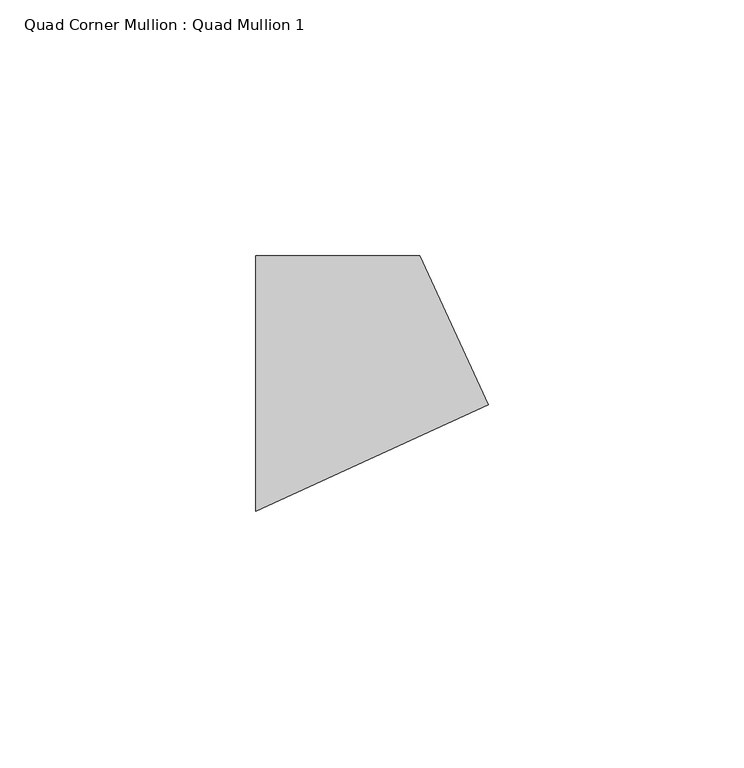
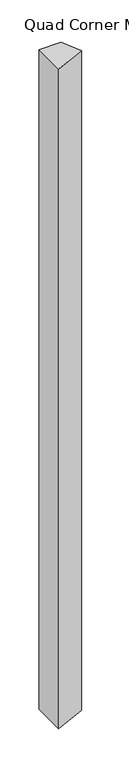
"""IFC4 building model written with IfcOpenShell, lengths in millimetres: member geometry, Quad Corner Mullion : Quad Mullion 1."""

from ifc_helpers import new_model, si_unit, frame, origin, place, context, project, spatial, polyline, outline, extrude, source, transform, mapped, element, save


def quad_corner_mullion_quad_mullion_1_28ccaedd(model_context):
    return source(origin(), model_context, "Body", "SweptSolid", [
        extrude(outline(polyline([(29.4125559, -4.1926582), (-16.0523154, -25.0), (-16.0523154, 25.0), (16.0523154, 25.0), (29.4125559, -4.1926582)])), frame((0.0, 0.0, -1023.8543217), z_axis=(0.0, 0.0, 1.0), x_axis=(1.0, 0.0, 0.0)), (0.0, 0.0, 1.0), 1023.8543217),
    ])


if __name__ == "__main__":
    model = new_model("IFC4")
    model_context = context("Model", 3, world=origin())
    ifc_project = project(units=[si_unit("LENGTHUNIT", "METRE", prefix="MILLI")], contexts=[model_context])
    site = spatial("IfcSite", under=ifc_project)
    building = spatial("IfcBuilding", under=site)
    placement = place(None, origin())
    quad_corner_mullion_quad_mullion_1_shape = quad_corner_mullion_quad_mullion_1_28ccaedd(model_context)
    element("IfcMember", 1, ObjectType="Quad Corner Mullion : Quad Mullion 1", at=placement, inside=building, context=model_context, shape_type="MappedRepresentation", body=[
        mapped(quad_corner_mullion_quad_mullion_1_shape, transform((0.0, 0.0, 0.0), x_axis=(1.0, 0.0, 0.0), y_axis=(0.0, 1.0, 0.0), z_axis=(0.0, 0.0, 1.0))),
    ])
    save(model, "model.ifc")
